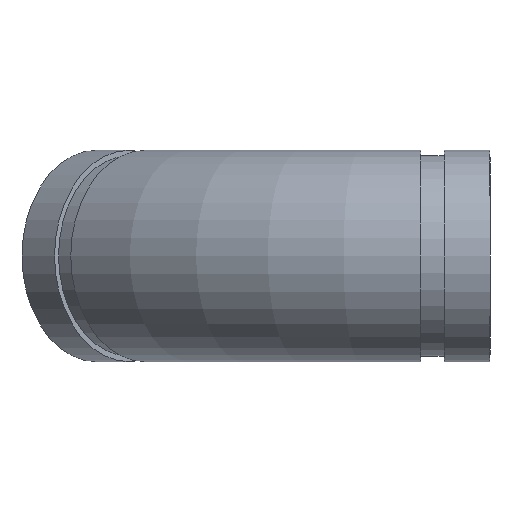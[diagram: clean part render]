
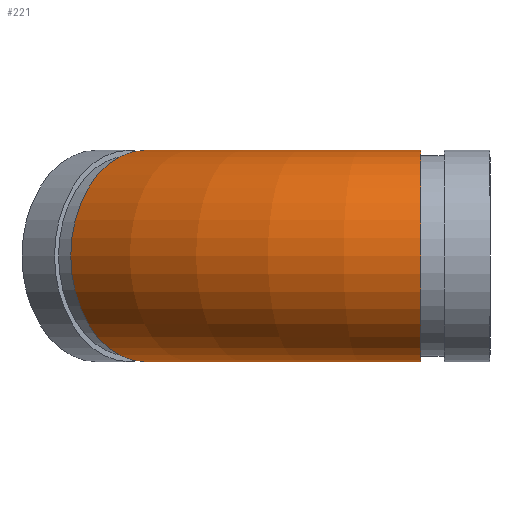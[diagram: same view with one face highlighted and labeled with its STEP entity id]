
A CAD part, left-side view. The second image highlights one B-rep face of the part: STEP entity #221.
In plain terms, the highlighted toroidal (fillet/blend) face has major radius 134.416 mm and minor radius 36.513 mm.
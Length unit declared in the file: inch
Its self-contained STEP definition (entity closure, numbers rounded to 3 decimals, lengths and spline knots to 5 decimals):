
#15=TOROIDAL_SURFACE('',#273,5.29196,1.4375);
#50=FACE_OUTER_BOUND('',#68,.T.);
#68=EDGE_LOOP('',(#178,#179,#180,#181));
#74=CIRCLE('',#246,1.4375);
#83=CIRCLE('',#259,1.4375);
#92=CIRCLE('',#274,3.85446);
#94=VERTEX_POINT('',#357);
#103=VERTEX_POINT('',#380);
#112=EDGE_CURVE('',#94,#94,#74,.T.);
#122=EDGE_CURVE('',#103,#103,#83,.T.);
#135=EDGE_CURVE('',#94,#103,#92,.T.);
#178=ORIENTED_EDGE('',*,*,#112,.T.);
#179=ORIENTED_EDGE('',*,*,#135,.T.);
#180=ORIENTED_EDGE('',*,*,#122,.F.);
#181=ORIENTED_EDGE('',*,*,#135,.F.);
#221=ADVANCED_FACE('',(#50),#15,.T.);
#246=AXIS2_PLACEMENT_3D('',#358,#283,#284);
#259=AXIS2_PLACEMENT_3D('',#381,#310,#311);
#273=AXIS2_PLACEMENT_3D('',#406,#342,#343);
#274=AXIS2_PLACEMENT_3D('',#407,#344,#345);
#283=DIRECTION('center_axis',(0.,1.,0.));
#284=DIRECTION('ref_axis',(-1.,0.,0.));
#310=DIRECTION('center_axis',(0.707,0.707,0.));
#311=DIRECTION('ref_axis',(-0.707,0.707,0.));
#342=DIRECTION('center_axis',(0.,0.,1.));
#343=DIRECTION('ref_axis',(1.,0.,0.));
#344=DIRECTION('center_axis',(0.,0.,-1.));
#345=DIRECTION('ref_axis',(1.,0.,0.));
#357=CARTESIAN_POINT('',(1.4375,0.938,0.));
#358=CARTESIAN_POINT('Origin',(0.,0.938,0.));
#380=CARTESIAN_POINT('',(2.56644,3.66351,0.));
#381=CARTESIAN_POINT('Origin',(1.54998,4.67998,0.));
#406=CARTESIAN_POINT('Origin',(5.29196,0.938,0.));
#407=CARTESIAN_POINT('Origin',(5.29196,0.938,0.));
